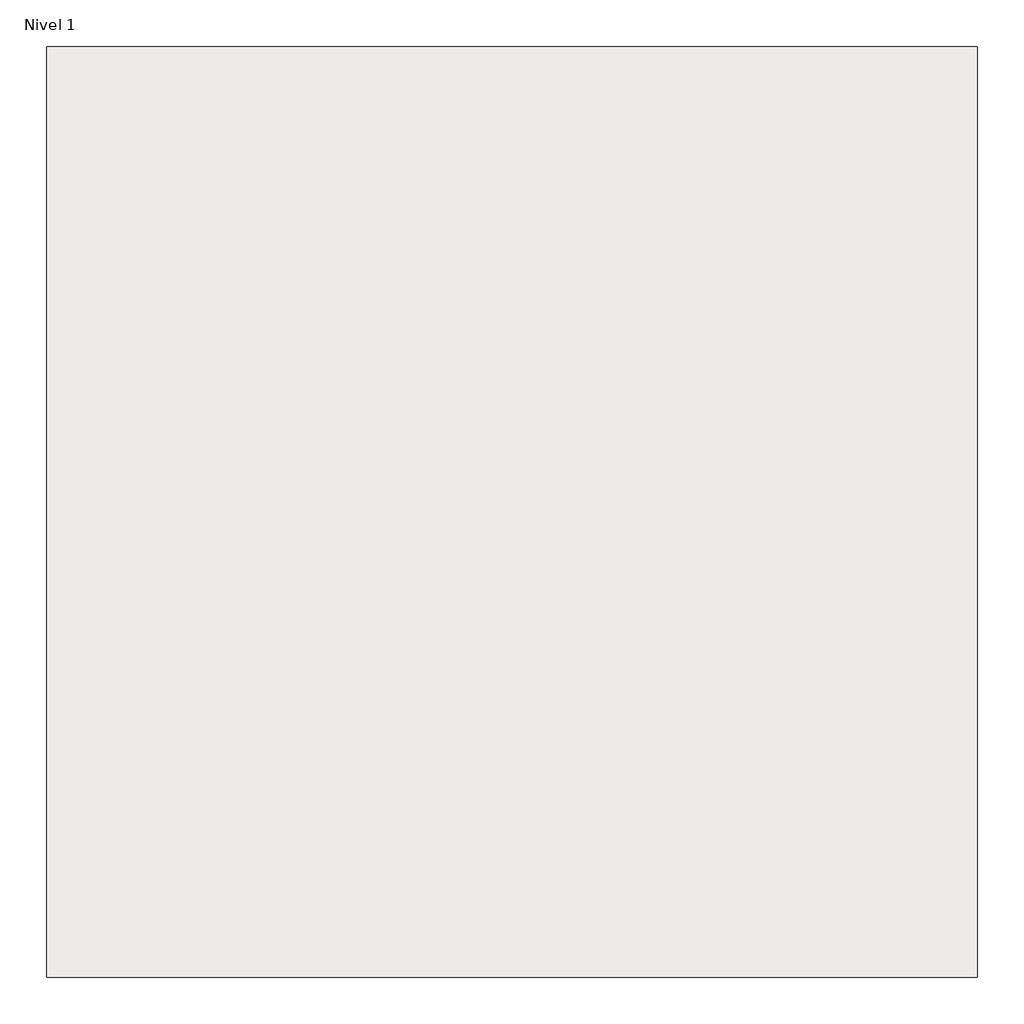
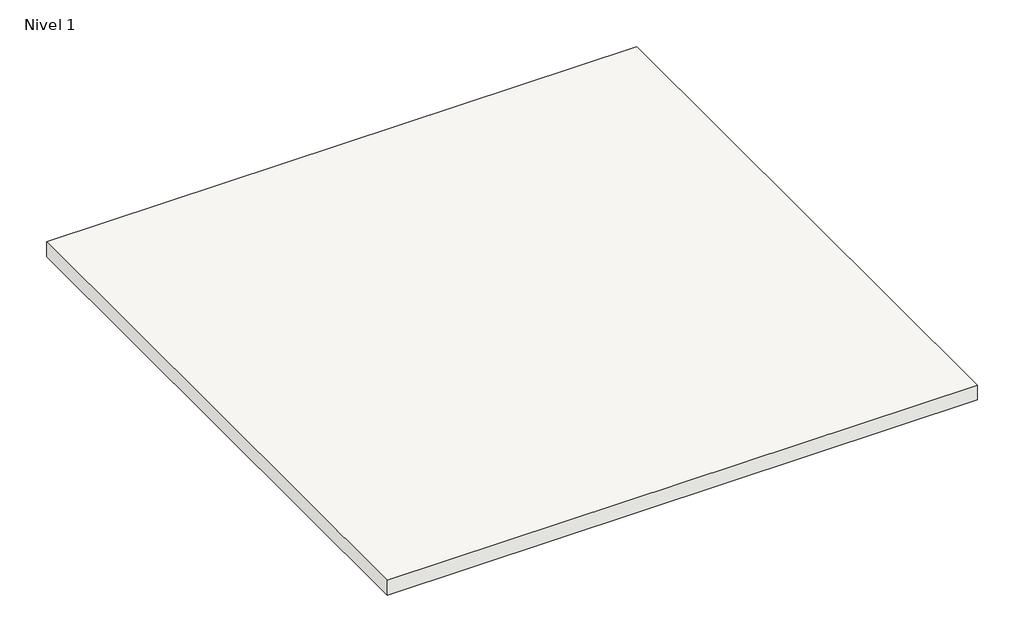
# One storey: 1 roof.
"""IFC4 building model written with IfcOpenShell, lengths in millimetres."""

from ifc_helpers import new_model, si_unit, origin, origin_with_axes, place, context, project, spatial, polyline, outline, extrude, element, save

model = new_model("IFC4")

# Units and contexts
model_context = context("Model", 3, world=origin())
ifc_project = project(units=[si_unit("LENGTHUNIT", "METRE", prefix="MILLI")], contexts=[model_context])

# Site, building, storey
site = spatial("IfcSite", under=ifc_project)
building = spatial("IfcBuilding", under=site)
storey = spatial("IfcBuildingStorey", under=building, Name="Nivel 1", Elevation=0.0)

# Roof
placement = place(None, origin())
element("IfcRoof", 1, ObjectType="Cubierta plana convencional no transitable - Protección ligera - BANTDGM7", at=placement, inside=storey, context=model_context, shape_type="SweptSolid", body=[
    extrude(outline(polyline([(-2544.9527165, -3086.8428917), (-6544.9527165, -3086.8428917), (-6544.9527165, 913.1571083), (-2544.9527165, 913.1571083), (-2544.9527165, -3086.8428917)])), origin_with_axes(), (0.0, 0.0, 1.0), 105.0),
])

save(model, "model.ifc")
